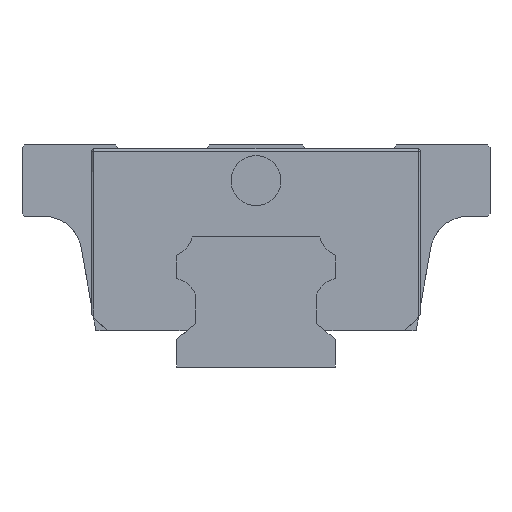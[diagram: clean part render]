
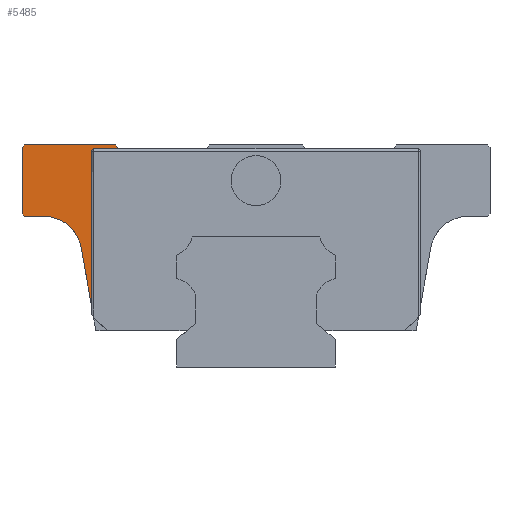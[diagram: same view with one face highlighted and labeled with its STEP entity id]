
A CAD part, left-side view. The second image highlights one B-rep face of the part: STEP entity #5485.
In plain terms, the highlighted planar face has unit normal (-1, 0, 0).
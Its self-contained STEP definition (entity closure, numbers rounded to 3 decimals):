
#44 = VECTOR ( 'NONE', #1891, 1000. ) ;
#107 = CARTESIAN_POINT ( 'NONE',  ( -13.9, 17.285, 27.505 ) ) ;
#256 = ORIENTED_EDGE ( 'NONE', *, *, #3831, .F. ) ;
#302 = CARTESIAN_POINT ( 'NONE',  ( -13.9, 29.205, 19. ) ) ;
#347 = EDGE_CURVE ( 'NONE', #6068, #1716, #6338, .T. ) ;
#413 = ORIENTED_EDGE ( 'NONE', *, *, #347, .T. ) ;
#453 = CARTESIAN_POINT ( 'NONE',  ( -13.9, 3.032, -7.173 ) ) ;
#521 = EDGE_CURVE ( 'NONE', #1147, #1698, #2839, .T. ) ;
#551 = CARTESIAN_POINT ( 'NONE',  ( -13.9, 26.714, 19. ) ) ;
#690 = DIRECTION ( 'NONE',  ( 0., 0., 1. ) ) ;
#731 = CARTESIAN_POINT ( 'NONE',  ( -13.9, 20.752, 27.21 ) ) ;
#760 = ORIENTED_EDGE ( 'NONE', *, *, #2619, .F. ) ;
#879 = CARTESIAN_POINT ( 'NONE',  ( -13.9, -20.542, 27.505 ) ) ;
#957 = DIRECTION ( 'NONE',  ( 0., 1., 0. ) ) ;
#968 = DIRECTION ( 'NONE',  ( 0., 0., -1. ) ) ;
#1146 = EDGE_CURVE ( 'NONE', #5651, #6068, #2301, .T. ) ;
#1147 = VERTEX_POINT ( 'NONE', #731 ) ;
#1214 = CARTESIAN_POINT ( 'NONE',  ( -13.9, 26.714, 14.25 ) ) ;
#1236 = CARTESIAN_POINT ( 'NONE',  ( -13.9, 17.7, 28. ) ) ;
#1278 = ORIENTED_EDGE ( 'NONE', *, *, #4213, .T. ) ;
#1334 = VECTOR ( 'NONE', #2958, 1000. ) ;
#1611 = CARTESIAN_POINT ( 'NONE',  ( -13.9, 17.7, 28. ) ) ;
#1627 = ORIENTED_EDGE ( 'NONE', *, *, #2022, .T. ) ;
#1650 = VERTEX_POINT ( 'NONE', #4034 ) ;
#1670 = AXIS2_PLACEMENT_3D ( 'NONE', #4014, #6787, #2955 ) ;
#1687 = DIRECTION ( 'NONE',  ( 0., -1., 0. ) ) ;
#1698 = VERTEX_POINT ( 'NONE', #2868 ) ;
#1716 = VERTEX_POINT ( 'NONE', #6552 ) ;
#1740 = CARTESIAN_POINT ( 'NONE',  ( -13.9, 20.752, 26.875 ) ) ;
#1801 = CARTESIAN_POINT ( 'NONE',  ( -13.9, 20.457, 27.21 ) ) ;
#1810 = LINE ( 'NONE', #1740, #6446 ) ;
#1891 = DIRECTION ( 'NONE',  ( 0., -0.174, -0.985 ) ) ;
#1906 = EDGE_LOOP ( 'NONE', ( #256, #6662, #760, #3953, #413, #1627, #3357, #2431, #3992, #1278, #6814 ) ) ;
#2022 = EDGE_CURVE ( 'NONE', #1716, #6030, #5576, .T. ) ;
#2181 = CARTESIAN_POINT ( 'NONE',  ( -13.9, 29.5, 27.705 ) ) ;
#2301 = LINE ( 'NONE', #6509, #5517 ) ;
#2425 = VERTEX_POINT ( 'NONE', #302 ) ;
#2431 = ORIENTED_EDGE ( 'NONE', *, *, #6542, .T. ) ;
#2605 = EDGE_CURVE ( 'NONE', #6492, #1650, #5552, .T. ) ;
#2619 = EDGE_CURVE ( 'NONE', #5651, #1698, #3587, .T. ) ;
#2669 = CARTESIAN_POINT ( 'NONE',  ( -13.9, 22.036, 15.075 ) ) ;
#2716 = CIRCLE ( 'NONE', #5144, 4.75 ) ;
#2793 = LINE ( 'NONE', #2833, #5350 ) ;
#2833 = CARTESIAN_POINT ( 'NONE',  ( -13.9, 29.5, 19. ) ) ;
#2839 = CIRCLE ( 'NONE', #4261, 0.295 ) ;
#2868 = CARTESIAN_POINT ( 'NONE',  ( -13.9, 20.457, 27.505 ) ) ;
#2933 = CARTESIAN_POINT ( 'NONE',  ( -13.9, 22.728, 19. ) ) ;
#2955 = DIRECTION ( 'NONE',  ( 0., 0., 1. ) ) ;
#2958 = DIRECTION ( 'NONE',  ( 0., 0.707, -0.707 ) ) ;
#3060 = PLANE ( 'NONE',  #1670 ) ;
#3269 = DIRECTION ( 'NONE',  ( 0., 0.643, 0.766 ) ) ;
#3357 = ORIENTED_EDGE ( 'NONE', *, *, #5840, .T. ) ;
#3372 = CARTESIAN_POINT ( 'NONE',  ( -13.9, 29.5, 19.295 ) ) ;
#3434 = VECTOR ( 'NONE', #968, 1000. ) ;
#3569 = DIRECTION ( 'NONE',  ( 0., -0.707, -0.707 ) ) ;
#3574 = CARTESIAN_POINT ( 'NONE',  ( -13.9, 21.932, 35.273 ) ) ;
#3587 = LINE ( 'NONE', #879, #5996 ) ;
#3713 = VECTOR ( 'NONE', #5657, 1000. ) ;
#3831 = EDGE_CURVE ( 'NONE', #1147, #1650, #1810, .T. ) ;
#3916 = DIRECTION ( 'NONE',  ( 0., 0., -1. ) ) ;
#3953 = ORIENTED_EDGE ( 'NONE', *, *, #1146, .T. ) ;
#3992 = ORIENTED_EDGE ( 'NONE', *, *, #4900, .T. ) ;
#4014 = CARTESIAN_POINT ( 'NONE',  ( -13.9, 0., 17.29 ) ) ;
#4034 = CARTESIAN_POINT ( 'NONE',  ( -13.9, 20.752, 7.791 ) ) ;
#4133 = VERTEX_POINT ( 'NONE', #551 ) ;
#4156 = LINE ( 'NONE', #453, #5663 ) ;
#4213 = EDGE_CURVE ( 'NONE', #4133, #6492, #2716, .T. ) ;
#4261 = AXIS2_PLACEMENT_3D ( 'NONE', #1801, #6572, #4941 ) ;
#4526 = FACE_OUTER_BOUND ( 'NONE', #1906, .T. ) ;
#4595 = CARTESIAN_POINT ( 'NONE',  ( -13.9, 29.5, 28. ) ) ;
#4900 = EDGE_CURVE ( 'NONE', #2425, #4133, #2793, .T. ) ;
#4941 = DIRECTION ( 'NONE',  ( 0., 0., 1. ) ) ;
#5144 = AXIS2_PLACEMENT_3D ( 'NONE', #1214, #6494, #690 ) ;
#5350 = VECTOR ( 'NONE', #1687, 1000. ) ;
#5485 = ADVANCED_FACE ( 'NONE', ( #4526 ), #3060, .T. ) ;
#5517 = VECTOR ( 'NONE', #3269, 1000. ) ;
#5552 = LINE ( 'NONE', #2933, #44 ) ;
#5576 = LINE ( 'NONE', #3574, #1334 ) ;
#5651 = VERTEX_POINT ( 'NONE', #107 ) ;
#5657 = DIRECTION ( 'NONE',  ( 0., 1., 0. ) ) ;
#5663 = VECTOR ( 'NONE', #3569, 1000. ) ;
#5840 = EDGE_CURVE ( 'NONE', #6030, #6179, #6083, .T. ) ;
#5996 = VECTOR ( 'NONE', #957, 1000. ) ;
#6030 = VERTEX_POINT ( 'NONE', #2181 ) ;
#6068 = VERTEX_POINT ( 'NONE', #1236 ) ;
#6083 = LINE ( 'NONE', #4595, #3434 ) ;
#6179 = VERTEX_POINT ( 'NONE', #3372 ) ;
#6338 = LINE ( 'NONE', #1611, #3713 ) ;
#6446 = VECTOR ( 'NONE', #3916, 1000. ) ;
#6492 = VERTEX_POINT ( 'NONE', #2669 ) ;
#6494 = DIRECTION ( 'NONE',  ( 1., 0., 0. ) ) ;
#6509 = CARTESIAN_POINT ( 'NONE',  ( -13.9, 17.228, 27.438 ) ) ;
#6542 = EDGE_CURVE ( 'NONE', #6179, #2425, #4156, .T. ) ;
#6552 = CARTESIAN_POINT ( 'NONE',  ( -13.9, 29.205, 28. ) ) ;
#6572 = DIRECTION ( 'NONE',  ( 1., 0., 0. ) ) ;
#6662 = ORIENTED_EDGE ( 'NONE', *, *, #521, .T. ) ;
#6787 = DIRECTION ( 'NONE',  ( -1., 0., 0. ) ) ;
#6814 = ORIENTED_EDGE ( 'NONE', *, *, #2605, .T. ) ;
